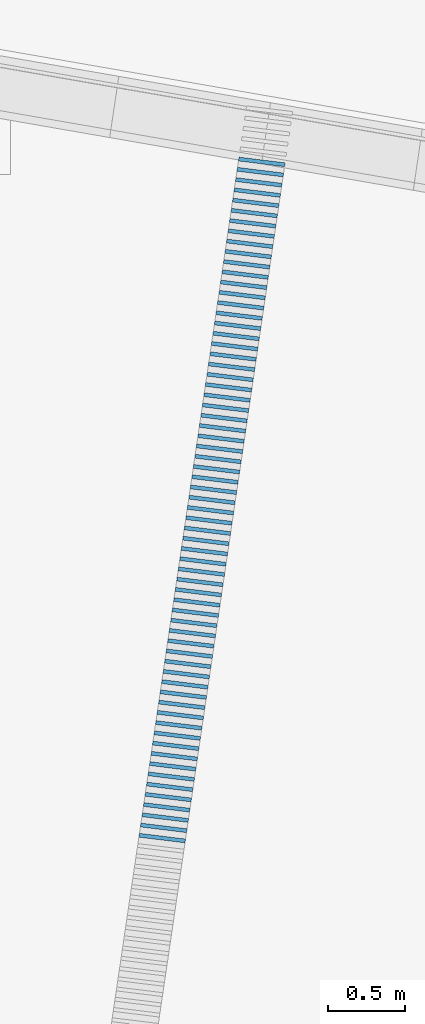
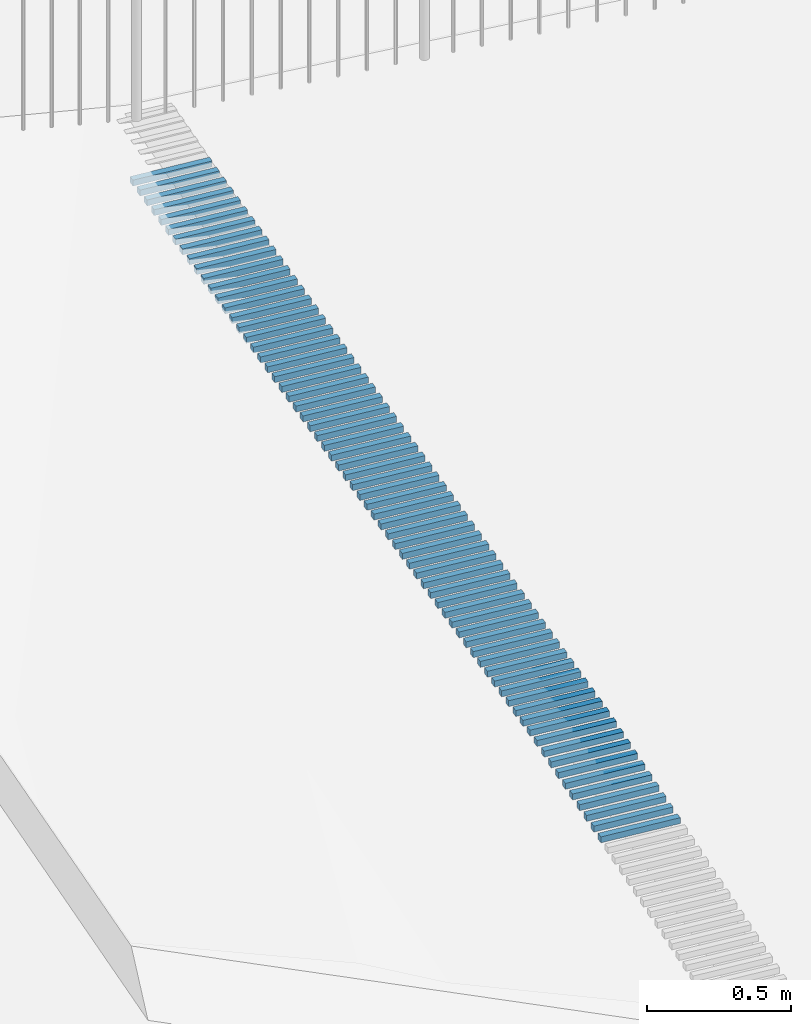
# Not in any storey, part 2 of 45: 67 members.
"""IFC4 model written with IfcOpenShell, lengths in metres."""

from ifc_helpers import new_model, si_unit, direction, frame, origin_with_axes, place, context, subcontext, project, spatial, rectangle, extrude, material, material_profile, profile_set, profile_usage, type_object, element, save


model = new_model("IFC4")

# Units and contexts
model_context = context("Model", 3, precision=1e-05, world=origin_with_axes(), true_north=direction((0.0, 1.0)))
body_context = subcontext(model_context, "Body", "Model", "MODEL_VIEW")
ifc_project = project(units=[si_unit("VOLUMEUNIT", "CUBIC_METRE"), si_unit("LENGTHUNIT", "METRE"), si_unit("AREAUNIT", "SQUARE_METRE")], contexts=[model_context])

# Site
site_placement = place(None, origin_with_axes())
site = spatial("IfcSite", under=ifc_project, at=site_placement, Name="Lares · Rua das Mercês · artigo 4771")

# Members
ifc_material = material(Name="Aço galvanizado / Stahl verzinkt", Category="steel")
ifc_material_profile = material_profile(ifc_material, rectangle(XDim=0.025, YDim=0.025))
ifc_profile_set = profile_set([ifc_material_profile], Name="R0.025")
ifc_profile_usage_1 = profile_usage(ifc_profile_set)
member_type = type_object("IfcMemberType", Name="R0.025 / galvanized", PredefinedType="NOTDEFINED", material=ifc_profile_set)
member_1_placement = place(site_placement, frame((49.015085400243, 6.59258553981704, 15.5699738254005), z_axis=(0.992517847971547, -0.12209963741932, 0.0), x_axis=(-0.12209963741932, -0.992517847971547, 0.0)))
element("IfcMember", 1, at=member_1_placement, inside=site, type_object=member_type, material=ifc_profile_usage_1, Name="Interceção · grelha estacionamento", context=body_context, shape_type="SweptSolid", body=[
    extrude(rectangle(XDim=0.025, YDim=0.025), origin_with_axes(), (0.0, 0.0, 1.0), 0.300000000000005),
])
ifc_profile_usage_2 = profile_usage(ifc_profile_set)
member_2_placement = place(site_placement, frame((49.0248366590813, 6.65880872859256, 15.5718488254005), z_axis=(0.992517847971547, -0.12209963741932, 0.0), x_axis=(-0.12209963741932, -0.992517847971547, 0.0)))
element("IfcMember", 2, at=member_2_placement, inside=site, type_object=member_type, material=ifc_profile_usage_2, Name="Interceção · grelha estacionamento", context=body_context, shape_type="SweptSolid", body=[
    extrude(rectangle(XDim=0.025, YDim=0.025), origin_with_axes(), (0.0, 0.0, 1.0), 0.300000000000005),
])
ifc_profile_usage_3 = profile_usage(ifc_profile_set)
member_3_placement = place(site_placement, frame((49.0345879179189, 6.7250319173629, 15.5737238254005), z_axis=(0.992517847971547, -0.12209963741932, 0.0), x_axis=(-0.12209963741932, -0.992517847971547, 0.0)))
element("IfcMember", 3, at=member_3_placement, inside=site, type_object=member_type, material=ifc_profile_usage_3, Name="Interceção · grelha estacionamento", context=body_context, shape_type="SweptSolid", body=[
    extrude(rectangle(XDim=0.025, YDim=0.025), origin_with_axes(), (0.0, 0.0, 1.0), 0.300000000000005),
])
ifc_profile_usage_4 = profile_usage(ifc_profile_set)
member_4_placement = place(site_placement, frame((49.0443391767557, 6.79125510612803, 15.5755988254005), z_axis=(0.992517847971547, -0.12209963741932, 0.0), x_axis=(-0.12209963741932, -0.992517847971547, 0.0)))
element("IfcMember", 4, at=member_4_placement, inside=site, type_object=member_type, material=ifc_profile_usage_4, Name="Interceção · grelha estacionamento", context=body_context, shape_type="SweptSolid", body=[
    extrude(rectangle(XDim=0.025, YDim=0.025), origin_with_axes(), (0.0, 0.0, 1.0), 0.300000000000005),
])
ifc_profile_usage_5 = profile_usage(ifc_profile_set)
member_5_placement = place(site_placement, frame((49.0540904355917, 6.85747829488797, 15.5774738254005), z_axis=(0.992517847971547, -0.12209963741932, 0.0), x_axis=(-0.12209963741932, -0.992517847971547, 0.0)))
element("IfcMember", 5, at=member_5_placement, inside=site, type_object=member_type, material=ifc_profile_usage_5, Name="Interceção · grelha estacionamento", context=body_context, shape_type="SweptSolid", body=[
    extrude(rectangle(XDim=0.025, YDim=0.025), origin_with_axes(), (0.0, 0.0, 1.0), 0.300000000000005),
])
ifc_profile_usage_6 = profile_usage(ifc_profile_set)
member_6_placement = place(site_placement, frame((49.063841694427, 6.92370148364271, 15.5793488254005), z_axis=(0.992517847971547, -0.12209963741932, 0.0), x_axis=(-0.12209963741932, -0.992517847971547, 0.0)))
element("IfcMember", 6, at=member_6_placement, inside=site, type_object=member_type, material=ifc_profile_usage_6, Name="Interceção · grelha estacionamento", context=body_context, shape_type="SweptSolid", body=[
    extrude(rectangle(XDim=0.025, YDim=0.025), origin_with_axes(), (0.0, 0.0, 1.0), 0.300000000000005),
])
ifc_profile_usage_7 = profile_usage(ifc_profile_set)
member_7_placement = place(site_placement, frame((49.0735929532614, 6.98992467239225, 15.5812238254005), z_axis=(0.992517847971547, -0.12209963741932, 0.0), x_axis=(-0.12209963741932, -0.992517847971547, 0.0)))
element("IfcMember", 7, at=member_7_placement, inside=site, type_object=member_type, material=ifc_profile_usage_7, Name="Interceção · grelha estacionamento", context=body_context, shape_type="SweptSolid", body=[
    extrude(rectangle(XDim=0.025, YDim=0.025), origin_with_axes(), (0.0, 0.0, 1.0), 0.300000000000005),
])
ifc_profile_usage_8 = profile_usage(ifc_profile_set)
member_8_placement = place(site_placement, frame((49.0833442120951, 7.05614786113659, 15.5830988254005), z_axis=(0.992517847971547, -0.12209963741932, 0.0), x_axis=(-0.12209963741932, -0.992517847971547, 0.0)))
element("IfcMember", 8, at=member_8_placement, inside=site, type_object=member_type, material=ifc_profile_usage_8, Name="Interceção · grelha estacionamento", context=body_context, shape_type="SweptSolid", body=[
    extrude(rectangle(XDim=0.025, YDim=0.025), origin_with_axes(), (0.0, 0.0, 1.0), 0.300000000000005),
])
ifc_profile_usage_9 = profile_usage(ifc_profile_set)
member_9_placement = place(site_placement, frame((49.0930954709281, 7.12237104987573, 15.5849738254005), z_axis=(0.992517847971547, -0.12209963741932, 0.0), x_axis=(-0.12209963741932, -0.992517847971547, 0.0)))
element("IfcMember", 9, at=member_9_placement, inside=site, type_object=member_type, material=ifc_profile_usage_9, Name="Interceção · grelha estacionamento", context=body_context, shape_type="SweptSolid", body=[
    extrude(rectangle(XDim=0.025, YDim=0.025), origin_with_axes(), (0.0, 0.0, 1.0), 0.300000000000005),
])
ifc_profile_usage_10 = profile_usage(ifc_profile_set)
member_10_placement = place(site_placement, frame((49.1028467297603, 7.18859423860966, 15.5868488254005), z_axis=(0.992517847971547, -0.12209963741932, 0.0), x_axis=(-0.12209963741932, -0.992517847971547, 0.0)))
element("IfcMember", 10, at=member_10_placement, inside=site, type_object=member_type, material=ifc_profile_usage_10, Name="Interceção · grelha estacionamento", context=body_context, shape_type="SweptSolid", body=[
    extrude(rectangle(XDim=0.025, YDim=0.025), origin_with_axes(), (0.0, 0.0, 1.0), 0.300000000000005),
])
ifc_profile_usage_11 = profile_usage(ifc_profile_set)
member_11_placement = place(site_placement, frame((49.1125979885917, 7.25481742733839, 15.5872761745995), z_axis=(0.992517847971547, -0.12209963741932, 0.0), x_axis=(-0.12209963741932, -0.992517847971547, 0.0)))
element("IfcMember", 11, at=member_11_placement, inside=site, type_object=member_type, material=ifc_profile_usage_11, Name="Interceção · grelha estacionamento", context=body_context, shape_type="SweptSolid", body=[
    extrude(rectangle(XDim=0.025, YDim=0.025), origin_with_axes(), (0.0, 0.0, 1.0), 0.300000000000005),
])
ifc_profile_usage_12 = profile_usage(ifc_profile_set)
member_12_placement = place(site_placement, frame((49.1223492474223, 7.32104061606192, 15.5854011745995), z_axis=(0.992517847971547, -0.12209963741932, 0.0), x_axis=(-0.12209963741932, -0.992517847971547, 0.0)))
element("IfcMember", 12, at=member_12_placement, inside=site, type_object=member_type, material=ifc_profile_usage_12, Name="Interceção · grelha estacionamento", context=body_context, shape_type="SweptSolid", body=[
    extrude(rectangle(XDim=0.025, YDim=0.025), origin_with_axes(), (0.0, 0.0, 1.0), 0.300000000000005),
])
ifc_profile_usage_13 = profile_usage(ifc_profile_set)
member_13_placement = place(site_placement, frame((49.1321005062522, 7.38726380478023, 15.5835261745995), z_axis=(0.992517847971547, -0.12209963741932, 0.0), x_axis=(-0.12209963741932, -0.992517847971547, 0.0)))
element("IfcMember", 13, at=member_13_placement, inside=site, type_object=member_type, material=ifc_profile_usage_13, Name="Interceção · grelha estacionamento", context=body_context, shape_type="SweptSolid", body=[
    extrude(rectangle(XDim=0.025, YDim=0.025), origin_with_axes(), (0.0, 0.0, 1.0), 0.300000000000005),
])
ifc_profile_usage_14 = profile_usage(ifc_profile_set)
member_14_placement = place(site_placement, frame((49.1418517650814, 7.45348699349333, 15.5816511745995), z_axis=(0.992517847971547, -0.12209963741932, 0.0), x_axis=(-0.12209963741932, -0.992517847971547, 0.0)))
element("IfcMember", 14, at=member_14_placement, inside=site, type_object=member_type, material=ifc_profile_usage_14, Name="Interceção · grelha estacionamento", context=body_context, shape_type="SweptSolid", body=[
    extrude(rectangle(XDim=0.025, YDim=0.025), origin_with_axes(), (0.0, 0.0, 1.0), 0.300000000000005),
])
ifc_profile_usage_15 = profile_usage(ifc_profile_set)
member_15_placement = place(site_placement, frame((49.1516030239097, 7.51971018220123, 15.5797761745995), z_axis=(0.992517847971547, -0.12209963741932, 0.0), x_axis=(-0.12209963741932, -0.992517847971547, 0.0)))
element("IfcMember", 15, at=member_15_placement, inside=site, type_object=member_type, material=ifc_profile_usage_15, Name="Interceção · grelha estacionamento", context=body_context, shape_type="SweptSolid", body=[
    extrude(rectangle(XDim=0.025, YDim=0.025), origin_with_axes(), (0.0, 0.0, 1.0), 0.300000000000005),
])
ifc_profile_usage_16 = profile_usage(ifc_profile_set)
member_16_placement = place(site_placement, frame((49.1613542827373, 7.58593337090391, 15.5779011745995), z_axis=(0.992517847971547, -0.12209963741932, 0.0), x_axis=(-0.12209963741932, -0.992517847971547, 0.0)))
element("IfcMember", 16, at=member_16_placement, inside=site, type_object=member_type, material=ifc_profile_usage_16, Name="Interceção · grelha estacionamento", context=body_context, shape_type="SweptSolid", body=[
    extrude(rectangle(XDim=0.025, YDim=0.025), origin_with_axes(), (0.0, 0.0, 1.0), 0.300000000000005),
])
ifc_profile_usage_17 = profile_usage(ifc_profile_set)
member_17_placement = place(site_placement, frame((49.1711055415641, 7.65215655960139, 15.5760261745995), z_axis=(0.992517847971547, -0.12209963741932, 0.0), x_axis=(-0.12209963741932, -0.992517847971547, 0.0)))
element("IfcMember", 17, at=member_17_placement, inside=site, type_object=member_type, material=ifc_profile_usage_17, Name="Interceção · grelha estacionamento", context=body_context, shape_type="SweptSolid", body=[
    extrude(rectangle(XDim=0.025, YDim=0.025), origin_with_axes(), (0.0, 0.0, 1.0), 0.300000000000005),
])
ifc_profile_usage_18 = profile_usage(ifc_profile_set)
member_18_placement = place(site_placement, frame((49.1808568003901, 7.71837974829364, 15.5741511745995), z_axis=(0.992517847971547, -0.12209963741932, 0.0), x_axis=(-0.12209963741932, -0.992517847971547, 0.0)))
element("IfcMember", 18, at=member_18_placement, inside=site, type_object=member_type, material=ifc_profile_usage_18, Name="Interceção · grelha estacionamento", context=body_context, shape_type="SweptSolid", body=[
    extrude(rectangle(XDim=0.025, YDim=0.025), origin_with_axes(), (0.0, 0.0, 1.0), 0.300000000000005),
])
ifc_profile_usage_19 = profile_usage(ifc_profile_set)
member_19_placement = place(site_placement, frame((49.1906080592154, 7.78460293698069, 15.5722761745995), z_axis=(0.992517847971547, -0.12209963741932, 0.0), x_axis=(-0.12209963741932, -0.992517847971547, 0.0)))
element("IfcMember", 19, at=member_19_placement, inside=site, type_object=member_type, material=ifc_profile_usage_19, Name="Interceção · grelha estacionamento", context=body_context, shape_type="SweptSolid", body=[
    extrude(rectangle(XDim=0.025, YDim=0.025), origin_with_axes(), (0.0, 0.0, 1.0), 0.300000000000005),
])
ifc_profile_usage_20 = profile_usage(ifc_profile_set)
member_20_placement = place(site_placement, frame((49.2003593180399, 7.85082612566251, 15.5704011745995), z_axis=(0.992517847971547, -0.12209963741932, 0.0), x_axis=(-0.12209963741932, -0.992517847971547, 0.0)))
element("IfcMember", 20, at=member_20_placement, inside=site, type_object=member_type, material=ifc_profile_usage_20, Name="Interceção · grelha estacionamento", context=body_context, shape_type="SweptSolid", body=[
    extrude(rectangle(XDim=0.025, YDim=0.025), origin_with_axes(), (0.0, 0.0, 1.0), 0.300000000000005),
])
ifc_profile_usage_21 = profile_usage(ifc_profile_set)
member_21_placement = place(site_placement, frame((49.2101105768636, 7.91704931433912, 15.5685261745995), z_axis=(0.992517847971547, -0.12209963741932, 0.0), x_axis=(-0.12209963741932, -0.992517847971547, 0.0)))
element("IfcMember", 21, at=member_21_placement, inside=site, type_object=member_type, material=ifc_profile_usage_21, Name="Interceção · grelha estacionamento", context=body_context, shape_type="SweptSolid", body=[
    extrude(rectangle(XDim=0.025, YDim=0.025), origin_with_axes(), (0.0, 0.0, 1.0), 0.300000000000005),
])
ifc_profile_usage_22 = profile_usage(ifc_profile_set)
member_22_placement = place(site_placement, frame((49.2198618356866, 7.98327250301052, 15.5666511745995), z_axis=(0.992517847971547, -0.12209963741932, 0.0), x_axis=(-0.12209963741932, -0.992517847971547, 0.0)))
element("IfcMember", 22, at=member_22_placement, inside=site, type_object=member_type, material=ifc_profile_usage_22, Name="Interceção · grelha estacionamento", context=body_context, shape_type="SweptSolid", body=[
    extrude(rectangle(XDim=0.025, YDim=0.025), origin_with_axes(), (0.0, 0.0, 1.0), 0.300000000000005),
])
ifc_profile_usage_23 = profile_usage(ifc_profile_set)
member_23_placement = place(site_placement, frame((49.2296130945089, 8.04949569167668, 15.5647761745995), z_axis=(0.992517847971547, -0.12209963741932, 0.0), x_axis=(-0.12209963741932, -0.992517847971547, 0.0)))
element("IfcMember", 23, at=member_23_placement, inside=site, type_object=member_type, material=ifc_profile_usage_23, Name="Interceção · grelha estacionamento", context=body_context, shape_type="SweptSolid", body=[
    extrude(rectangle(XDim=0.025, YDim=0.025), origin_with_axes(), (0.0, 0.0, 1.0), 0.300000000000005),
])
ifc_profile_usage_24 = profile_usage(ifc_profile_set)
member_24_placement = place(site_placement, frame((49.2393643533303, 8.11571888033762, 15.5629011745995), z_axis=(0.992517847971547, -0.12209963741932, 0.0), x_axis=(-0.12209963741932, -0.992517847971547, 0.0)))
element("IfcMember", 24, at=member_24_placement, inside=site, type_object=member_type, material=ifc_profile_usage_24, Name="Interceção · grelha estacionamento", context=body_context, shape_type="SweptSolid", body=[
    extrude(rectangle(XDim=0.025, YDim=0.025), origin_with_axes(), (0.0, 0.0, 1.0), 0.300000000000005),
])
ifc_profile_usage_25 = profile_usage(ifc_profile_set)
member_25_placement = place(site_placement, frame((49.249115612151, 8.18194206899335, 15.5610261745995), z_axis=(0.992517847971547, -0.12209963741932, 0.0), x_axis=(-0.12209963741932, -0.992517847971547, 0.0)))
element("IfcMember", 25, at=member_25_placement, inside=site, type_object=member_type, material=ifc_profile_usage_25, Name="Interceção · grelha estacionamento", context=body_context, shape_type="SweptSolid", body=[
    extrude(rectangle(XDim=0.025, YDim=0.025), origin_with_axes(), (0.0, 0.0, 1.0), 0.300000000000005),
])
ifc_profile_usage_26 = profile_usage(ifc_profile_set)
member_26_placement = place(site_placement, frame((49.2588668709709, 8.24816525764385, 15.5591511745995), z_axis=(0.992517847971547, -0.12209963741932, 0.0), x_axis=(-0.12209963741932, -0.992517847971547, 0.0)))
element("IfcMember", 26, at=member_26_placement, inside=site, type_object=member_type, material=ifc_profile_usage_26, Name="Interceção · grelha estacionamento", context=body_context, shape_type="SweptSolid", body=[
    extrude(rectangle(XDim=0.025, YDim=0.025), origin_with_axes(), (0.0, 0.0, 1.0), 0.300000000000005),
])
ifc_profile_usage_27 = profile_usage(ifc_profile_set)
member_27_placement = place(site_placement, frame((49.26861812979, 8.31438844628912, 15.5572761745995), z_axis=(0.992517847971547, -0.12209963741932, 0.0), x_axis=(-0.12209963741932, -0.992517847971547, 0.0)))
element("IfcMember", 27, at=member_27_placement, inside=site, type_object=member_type, material=ifc_profile_usage_27, Name="Interceção · grelha estacionamento", context=body_context, shape_type="SweptSolid", body=[
    extrude(rectangle(XDim=0.025, YDim=0.025), origin_with_axes(), (0.0, 0.0, 1.0), 0.300000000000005),
])
ifc_profile_usage_28 = profile_usage(ifc_profile_set)
member_28_placement = place(site_placement, frame((49.2783693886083, 8.38061163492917, 15.5554011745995), z_axis=(0.992517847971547, -0.12209963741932, 0.0), x_axis=(-0.12209963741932, -0.992517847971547, 0.0)))
element("IfcMember", 28, at=member_28_placement, inside=site, type_object=member_type, material=ifc_profile_usage_28, Name="Interceção · grelha estacionamento", context=body_context, shape_type="SweptSolid", body=[
    extrude(rectangle(XDim=0.025, YDim=0.025), origin_with_axes(), (0.0, 0.0, 1.0), 0.300000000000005),
])
ifc_profile_usage_29 = profile_usage(ifc_profile_set)
member_29_placement = place(site_placement, frame((49.2881206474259, 8.44683482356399, 15.5535261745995), z_axis=(0.992517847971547, -0.12209963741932, 0.0), x_axis=(-0.12209963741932, -0.992517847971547, 0.0)))
element("IfcMember", 29, at=member_29_placement, inside=site, type_object=member_type, material=ifc_profile_usage_29, Name="Interceção · grelha estacionamento", context=body_context, shape_type="SweptSolid", body=[
    extrude(rectangle(XDim=0.025, YDim=0.025), origin_with_axes(), (0.0, 0.0, 1.0), 0.300000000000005),
])
ifc_profile_usage_30 = profile_usage(ifc_profile_set)
member_30_placement = place(site_placement, frame((49.2978719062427, 8.51305801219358, 15.5516511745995), z_axis=(0.992517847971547, -0.12209963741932, 0.0), x_axis=(-0.12209963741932, -0.992517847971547, 0.0)))
element("IfcMember", 30, at=member_30_placement, inside=site, type_object=member_type, material=ifc_profile_usage_30, Name="Interceção · grelha estacionamento", context=body_context, shape_type="SweptSolid", body=[
    extrude(rectangle(XDim=0.025, YDim=0.025), origin_with_axes(), (0.0, 0.0, 1.0), 0.300000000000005),
])
ifc_profile_usage_31 = profile_usage(ifc_profile_set)
member_31_placement = place(site_placement, frame((49.3076231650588, 8.57928120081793, 15.5497761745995), z_axis=(0.992517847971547, -0.12209963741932, 0.0), x_axis=(-0.12209963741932, -0.992517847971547, 0.0)))
element("IfcMember", 31, at=member_31_placement, inside=site, type_object=member_type, material=ifc_profile_usage_31, Name="Interceção · grelha estacionamento", context=body_context, shape_type="SweptSolid", body=[
    extrude(rectangle(XDim=0.025, YDim=0.025), origin_with_axes(), (0.0, 0.0, 1.0), 0.300000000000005),
])
ifc_profile_usage_32 = profile_usage(ifc_profile_set)
member_32_placement = place(site_placement, frame((49.3173744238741, 8.64550438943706, 15.5479011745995), z_axis=(0.992517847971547, -0.12209963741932, 0.0), x_axis=(-0.12209963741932, -0.992517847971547, 0.0)))
element("IfcMember", 32, at=member_32_placement, inside=site, type_object=member_type, material=ifc_profile_usage_32, Name="Interceção · grelha estacionamento", context=body_context, shape_type="SweptSolid", body=[
    extrude(rectangle(XDim=0.025, YDim=0.025), origin_with_axes(), (0.0, 0.0, 1.0), 0.300000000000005),
])
ifc_profile_usage_33 = profile_usage(ifc_profile_set)
member_33_placement = place(site_placement, frame((49.3271256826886, 8.71172757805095, 15.5460261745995), z_axis=(0.992517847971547, -0.12209963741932, 0.0), x_axis=(-0.12209963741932, -0.992517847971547, 0.0)))
element("IfcMember", 33, at=member_33_placement, inside=site, type_object=member_type, material=ifc_profile_usage_33, Name="Interceção · grelha estacionamento", context=body_context, shape_type="SweptSolid", body=[
    extrude(rectangle(XDim=0.025, YDim=0.025), origin_with_axes(), (0.0, 0.0, 1.0), 0.300000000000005),
])
ifc_profile_usage_34 = profile_usage(ifc_profile_set)
member_34_placement = place(site_placement, frame((49.3368769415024, 8.7779507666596, 15.5441511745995), z_axis=(0.992517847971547, -0.12209963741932, 0.0), x_axis=(-0.12209963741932, -0.992517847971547, 0.0)))
element("IfcMember", 34, at=member_34_placement, inside=site, type_object=member_type, material=ifc_profile_usage_34, Name="Interceção · grelha estacionamento", context=body_context, shape_type="SweptSolid", body=[
    extrude(rectangle(XDim=0.025, YDim=0.025), origin_with_axes(), (0.0, 0.0, 1.0), 0.300000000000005),
])
ifc_profile_usage_35 = profile_usage(ifc_profile_set)
member_35_placement = place(site_placement, frame((49.3466282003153, 8.84417395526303, 15.5422761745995), z_axis=(0.992517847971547, -0.12209963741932, 0.0), x_axis=(-0.12209963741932, -0.992517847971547, 0.0)))
element("IfcMember", 35, at=member_35_placement, inside=site, type_object=member_type, material=ifc_profile_usage_35, Name="Interceção · grelha estacionamento", context=body_context, shape_type="SweptSolid", body=[
    extrude(rectangle(XDim=0.025, YDim=0.025), origin_with_axes(), (0.0, 0.0, 1.0), 0.300000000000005),
])
ifc_profile_usage_36 = profile_usage(ifc_profile_set)
member_36_placement = place(site_placement, frame((49.3563794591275, 8.91039714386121, 15.5404011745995), z_axis=(0.992517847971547, -0.12209963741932, 0.0), x_axis=(-0.12209963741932, -0.992517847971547, 0.0)))
element("IfcMember", 36, at=member_36_placement, inside=site, type_object=member_type, material=ifc_profile_usage_36, Name="Interceção · grelha estacionamento", context=body_context, shape_type="SweptSolid", body=[
    extrude(rectangle(XDim=0.025, YDim=0.025), origin_with_axes(), (0.0, 0.0, 1.0), 0.300000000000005),
])
ifc_profile_usage_37 = profile_usage(ifc_profile_set)
member_37_placement = place(site_placement, frame((49.3661307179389, 8.97662033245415, 15.5385261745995), z_axis=(0.992517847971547, -0.12209963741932, 0.0), x_axis=(-0.12209963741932, -0.992517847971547, 0.0)))
element("IfcMember", 37, at=member_37_placement, inside=site, type_object=member_type, material=ifc_profile_usage_37, Name="Interceção · grelha estacionamento", context=body_context, shape_type="SweptSolid", body=[
    extrude(rectangle(XDim=0.025, YDim=0.025), origin_with_axes(), (0.0, 0.0, 1.0), 0.300000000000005),
])
ifc_profile_usage_38 = profile_usage(ifc_profile_set)
member_38_placement = place(site_placement, frame((49.3758819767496, 9.04284352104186, 15.5366511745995), z_axis=(0.992517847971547, -0.12209963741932, 0.0), x_axis=(-0.12209963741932, -0.992517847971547, 0.0)))
element("IfcMember", 38, at=member_38_placement, inside=site, type_object=member_type, material=ifc_profile_usage_38, Name="Interceção · grelha estacionamento", context=body_context, shape_type="SweptSolid", body=[
    extrude(rectangle(XDim=0.025, YDim=0.025), origin_with_axes(), (0.0, 0.0, 1.0), 0.300000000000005),
])
ifc_profile_usage_39 = profile_usage(ifc_profile_set)
member_39_placement = place(site_placement, frame((49.3856332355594, 9.10906670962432, 15.5347761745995), z_axis=(0.992517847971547, -0.12209963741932, 0.0), x_axis=(-0.12209963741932, -0.992517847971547, 0.0)))
element("IfcMember", 39, at=member_39_placement, inside=site, type_object=member_type, material=ifc_profile_usage_39, Name="Interceção · grelha estacionamento", context=body_context, shape_type="SweptSolid", body=[
    extrude(rectangle(XDim=0.025, YDim=0.025), origin_with_axes(), (0.0, 0.0, 1.0), 0.300000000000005),
])
ifc_profile_usage_40 = profile_usage(ifc_profile_set)
member_40_placement = place(site_placement, frame((49.3953844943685, 9.17528989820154, 15.5329011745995), z_axis=(0.992517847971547, -0.12209963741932, 0.0), x_axis=(-0.12209963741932, -0.992517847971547, 0.0)))
element("IfcMember", 40, at=member_40_placement, inside=site, type_object=member_type, material=ifc_profile_usage_40, Name="Interceção · grelha estacionamento", context=body_context, shape_type="SweptSolid", body=[
    extrude(rectangle(XDim=0.025, YDim=0.025), origin_with_axes(), (0.0, 0.0, 1.0), 0.300000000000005),
])
ifc_profile_usage_41 = profile_usage(ifc_profile_set)
member_41_placement = place(site_placement, frame((49.4051357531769, 9.24151308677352, 15.5310261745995), z_axis=(0.992517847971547, -0.12209963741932, 0.0), x_axis=(-0.12209963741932, -0.992517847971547, 0.0)))
element("IfcMember", 41, at=member_41_placement, inside=site, type_object=member_type, material=ifc_profile_usage_41, Name="Interceção · grelha estacionamento", context=body_context, shape_type="SweptSolid", body=[
    extrude(rectangle(XDim=0.025, YDim=0.025), origin_with_axes(), (0.0, 0.0, 1.0), 0.300000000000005),
])
ifc_profile_usage_42 = profile_usage(ifc_profile_set)
member_42_placement = place(site_placement, frame((49.4148870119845, 9.30773627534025, 15.5291511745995), z_axis=(0.992517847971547, -0.12209963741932, 0.0), x_axis=(-0.12209963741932, -0.992517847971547, 0.0)))
element("IfcMember", 42, at=member_42_placement, inside=site, type_object=member_type, material=ifc_profile_usage_42, Name="Interceção · grelha estacionamento", context=body_context, shape_type="SweptSolid", body=[
    extrude(rectangle(XDim=0.025, YDim=0.025), origin_with_axes(), (0.0, 0.0, 1.0), 0.300000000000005),
])
ifc_profile_usage_43 = profile_usage(ifc_profile_set)
member_43_placement = place(site_placement, frame((49.4246382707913, 9.37395946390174, 15.5272761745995), z_axis=(0.992517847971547, -0.12209963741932, 0.0), x_axis=(-0.12209963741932, -0.992517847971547, 0.0)))
element("IfcMember", 43, at=member_43_placement, inside=site, type_object=member_type, material=ifc_profile_usage_43, Name="Interceção · grelha estacionamento", context=body_context, shape_type="SweptSolid", body=[
    extrude(rectangle(XDim=0.025, YDim=0.025), origin_with_axes(), (0.0, 0.0, 1.0), 0.300000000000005),
])
ifc_profile_usage_44 = profile_usage(ifc_profile_set)
member_44_placement = place(site_placement, frame((49.4343895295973, 9.44018265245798, 15.5254011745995), z_axis=(0.992517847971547, -0.12209963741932, 0.0), x_axis=(-0.12209963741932, -0.992517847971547, 0.0)))
element("IfcMember", 44, at=member_44_placement, inside=site, type_object=member_type, material=ifc_profile_usage_44, Name="Interceção · grelha estacionamento", context=body_context, shape_type="SweptSolid", body=[
    extrude(rectangle(XDim=0.025, YDim=0.025), origin_with_axes(), (0.0, 0.0, 1.0), 0.300000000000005),
])
ifc_profile_usage_45 = profile_usage(ifc_profile_set)
member_45_placement = place(site_placement, frame((49.4441407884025, 9.50640584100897, 15.5235261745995), z_axis=(0.992517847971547, -0.12209963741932, 0.0), x_axis=(-0.12209963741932, -0.992517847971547, 0.0)))
element("IfcMember", 45, at=member_45_placement, inside=site, type_object=member_type, material=ifc_profile_usage_45, Name="Interceção · grelha estacionamento", context=body_context, shape_type="SweptSolid", body=[
    extrude(rectangle(XDim=0.025, YDim=0.025), origin_with_axes(), (0.0, 0.0, 1.0), 0.300000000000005),
])
ifc_profile_usage_46 = profile_usage(ifc_profile_set)
member_46_placement = place(site_placement, frame((49.453892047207, 9.57262902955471, 15.5216511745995), z_axis=(0.992517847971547, -0.12209963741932, 0.0), x_axis=(-0.12209963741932, -0.992517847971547, 0.0)))
element("IfcMember", 46, at=member_46_placement, inside=site, type_object=member_type, material=ifc_profile_usage_46, Name="Interceção · grelha estacionamento", context=body_context, shape_type="SweptSolid", body=[
    extrude(rectangle(XDim=0.025, YDim=0.025), origin_with_axes(), (0.0, 0.0, 1.0), 0.300000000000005),
])
ifc_profile_usage_47 = profile_usage(ifc_profile_set)
member_47_placement = place(site_placement, frame((49.4636433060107, 9.63885221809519, 15.5197761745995), z_axis=(0.992517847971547, -0.12209963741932, 0.0), x_axis=(-0.12209963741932, -0.992517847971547, 0.0)))
element("IfcMember", 47, at=member_47_placement, inside=site, type_object=member_type, material=ifc_profile_usage_47, Name="Interceção · grelha estacionamento", context=body_context, shape_type="SweptSolid", body=[
    extrude(rectangle(XDim=0.025, YDim=0.025), origin_with_axes(), (0.0, 0.0, 1.0), 0.300000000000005),
])
ifc_profile_usage_48 = profile_usage(ifc_profile_set)
member_48_placement = place(site_placement, frame((49.4733945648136, 9.70507540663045, 15.5179011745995), z_axis=(0.992517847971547, -0.12209963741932, 0.0), x_axis=(-0.12209963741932, -0.992517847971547, 0.0)))
element("IfcMember", 48, at=member_48_placement, inside=site, type_object=member_type, material=ifc_profile_usage_48, Name="Interceção · grelha estacionamento", context=body_context, shape_type="SweptSolid", body=[
    extrude(rectangle(XDim=0.025, YDim=0.025), origin_with_axes(), (0.0, 0.0, 1.0), 0.300000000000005),
])
ifc_profile_usage_49 = profile_usage(ifc_profile_set)
member_49_placement = place(site_placement, frame((49.4831458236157, 9.77129859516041, 15.5160261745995), z_axis=(0.992517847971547, -0.12209963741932, 0.0), x_axis=(-0.12209963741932, -0.992517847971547, 0.0)))
element("IfcMember", 49, at=member_49_placement, inside=site, type_object=member_type, material=ifc_profile_usage_49, Name="Interceção · grelha estacionamento", context=body_context, shape_type="SweptSolid", body=[
    extrude(rectangle(XDim=0.025, YDim=0.025), origin_with_axes(), (0.0, 0.0, 1.0), 0.300000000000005),
])
ifc_profile_usage_50 = profile_usage(ifc_profile_set)
member_50_placement = place(site_placement, frame((49.4928970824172, 9.83752178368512, 15.5141511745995), z_axis=(0.992517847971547, -0.12209963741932, 0.0), x_axis=(-0.12209963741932, -0.992517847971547, 0.0)))
element("IfcMember", 50, at=member_50_placement, inside=site, type_object=member_type, material=ifc_profile_usage_50, Name="Interceção · grelha estacionamento", context=body_context, shape_type="SweptSolid", body=[
    extrude(rectangle(XDim=0.025, YDim=0.025), origin_with_axes(), (0.0, 0.0, 1.0), 0.300000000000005),
])
ifc_profile_usage_51 = profile_usage(ifc_profile_set)
member_51_placement = place(site_placement, frame((49.5026483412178, 9.90374497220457, 15.5122761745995), z_axis=(0.992517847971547, -0.12209963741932, 0.0), x_axis=(-0.12209963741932, -0.992517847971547, 0.0)))
element("IfcMember", 51, at=member_51_placement, inside=site, type_object=member_type, material=ifc_profile_usage_51, Name="Interceção · grelha estacionamento", context=body_context, shape_type="SweptSolid", body=[
    extrude(rectangle(XDim=0.025, YDim=0.025), origin_with_axes(), (0.0, 0.0, 1.0), 0.300000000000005),
])
ifc_profile_usage_52 = profile_usage(ifc_profile_set)
member_52_placement = place(site_placement, frame((49.5123996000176, 9.96996816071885, 15.5104011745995), z_axis=(0.992517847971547, -0.12209963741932, 0.0), x_axis=(-0.12209963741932, -0.992517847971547, 0.0)))
element("IfcMember", 52, at=member_52_placement, inside=site, type_object=member_type, material=ifc_profile_usage_52, Name="Interceção · grelha estacionamento", context=body_context, shape_type="SweptSolid", body=[
    extrude(rectangle(XDim=0.025, YDim=0.025), origin_with_axes(), (0.0, 0.0, 1.0), 0.300000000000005),
])
ifc_profile_usage_53 = profile_usage(ifc_profile_set)
member_53_placement = place(site_placement, frame((49.5221508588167, 10.0361913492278, 15.5085261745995), z_axis=(0.992517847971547, -0.12209963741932, 0.0), x_axis=(-0.12209963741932, -0.992517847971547, 0.0)))
element("IfcMember", 53, at=member_53_placement, inside=site, type_object=member_type, material=ifc_profile_usage_53, Name="Interceção · grelha estacionamento", context=body_context, shape_type="SweptSolid", body=[
    extrude(rectangle(XDim=0.025, YDim=0.025), origin_with_axes(), (0.0, 0.0, 1.0), 0.300000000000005),
])
ifc_profile_usage_54 = profile_usage(ifc_profile_set)
member_54_placement = place(site_placement, frame((49.5319021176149, 10.1024145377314, 15.5066511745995), z_axis=(0.992517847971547, -0.12209963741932, 0.0), x_axis=(-0.12209963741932, -0.992517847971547, 0.0)))
element("IfcMember", 54, at=member_54_placement, inside=site, type_object=member_type, material=ifc_profile_usage_54, Name="Interceção · grelha estacionamento", context=body_context, shape_type="SweptSolid", body=[
    extrude(rectangle(XDim=0.025, YDim=0.025), origin_with_axes(), (0.0, 0.0, 1.0), 0.300000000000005),
])
ifc_profile_usage_55 = profile_usage(ifc_profile_set)
member_55_placement = place(site_placement, frame((49.5416533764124, 10.1686377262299, 15.5047761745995), z_axis=(0.992517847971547, -0.12209963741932, 0.0), x_axis=(-0.12209963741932, -0.992517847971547, 0.0)))
element("IfcMember", 55, at=member_55_placement, inside=site, type_object=member_type, material=ifc_profile_usage_55, Name="Interceção · grelha estacionamento", context=body_context, shape_type="SweptSolid", body=[
    extrude(rectangle(XDim=0.025, YDim=0.025), origin_with_axes(), (0.0, 0.0, 1.0), 0.300000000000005),
])
ifc_profile_usage_56 = profile_usage(ifc_profile_set)
member_56_placement = place(site_placement, frame((49.5514046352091, 10.234860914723, 15.5029011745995), z_axis=(0.992517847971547, -0.12209963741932, 0.0), x_axis=(-0.12209963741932, -0.992517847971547, 0.0)))
element("IfcMember", 56, at=member_56_placement, inside=site, type_object=member_type, material=ifc_profile_usage_56, Name="Interceção · grelha estacionamento", context=body_context, shape_type="SweptSolid", body=[
    extrude(rectangle(XDim=0.025, YDim=0.025), origin_with_axes(), (0.0, 0.0, 1.0), 0.300000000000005),
])
ifc_profile_usage_57 = profile_usage(ifc_profile_set)
member_57_placement = place(site_placement, frame((49.5611558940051, 10.3010841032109, 15.5010261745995), z_axis=(0.992517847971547, -0.12209963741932, 0.0), x_axis=(-0.12209963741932, -0.992517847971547, 0.0)))
element("IfcMember", 57, at=member_57_placement, inside=site, type_object=member_type, material=ifc_profile_usage_57, Name="Interceção · grelha estacionamento", context=body_context, shape_type="SweptSolid", body=[
    extrude(rectangle(XDim=0.025, YDim=0.025), origin_with_axes(), (0.0, 0.0, 1.0), 0.300000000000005),
])
ifc_profile_usage_58 = profile_usage(ifc_profile_set)
member_58_placement = place(site_placement, frame((49.5709071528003, 10.3673072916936, 15.4991511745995), z_axis=(0.992517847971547, -0.12209963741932, 0.0), x_axis=(-0.12209963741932, -0.992517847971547, 0.0)))
element("IfcMember", 58, at=member_58_placement, inside=site, type_object=member_type, material=ifc_profile_usage_58, Name="Interceção · grelha estacionamento", context=body_context, shape_type="SweptSolid", body=[
    extrude(rectangle(XDim=0.025, YDim=0.025), origin_with_axes(), (0.0, 0.0, 1.0), 0.300000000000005),
])
ifc_profile_usage_59 = profile_usage(ifc_profile_set)
member_59_placement = place(site_placement, frame((49.5806584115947, 10.4335304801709, 15.4972761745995), z_axis=(0.992517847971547, -0.12209963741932, 0.0), x_axis=(-0.12209963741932, -0.992517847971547, 0.0)))
element("IfcMember", 59, at=member_59_placement, inside=site, type_object=member_type, material=ifc_profile_usage_59, Name="Interceção · grelha estacionamento", context=body_context, shape_type="SweptSolid", body=[
    extrude(rectangle(XDim=0.025, YDim=0.025), origin_with_axes(), (0.0, 0.0, 1.0), 0.300000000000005),
])
ifc_profile_usage_60 = profile_usage(ifc_profile_set)
member_60_placement = place(site_placement, frame((49.5904096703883, 10.499753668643, 15.4954011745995), z_axis=(0.992517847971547, -0.12209963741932, 0.0), x_axis=(-0.12209963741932, -0.992517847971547, 0.0)))
element("IfcMember", 60, at=member_60_placement, inside=site, type_object=member_type, material=ifc_profile_usage_60, Name="Interceção · grelha estacionamento", context=body_context, shape_type="SweptSolid", body=[
    extrude(rectangle(XDim=0.025, YDim=0.025), origin_with_axes(), (0.0, 0.0, 1.0), 0.300000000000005),
])
ifc_profile_usage_61 = profile_usage(ifc_profile_set)
member_61_placement = place(site_placement, frame((49.6001609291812, 10.5659768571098, 15.4935261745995), z_axis=(0.992517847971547, -0.12209963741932, 0.0), x_axis=(-0.12209963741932, -0.992517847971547, 0.0)))
element("IfcMember", 61, at=member_61_placement, inside=site, type_object=member_type, material=ifc_profile_usage_61, Name="Interceção · grelha estacionamento", context=body_context, shape_type="SweptSolid", body=[
    extrude(rectangle(XDim=0.025, YDim=0.025), origin_with_axes(), (0.0, 0.0, 1.0), 0.300000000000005),
])
ifc_profile_usage_62 = profile_usage(ifc_profile_set)
member_62_placement = place(site_placement, frame((49.6099121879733, 10.6322000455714, 15.4916511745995), z_axis=(0.992517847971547, -0.12209963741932, 0.0), x_axis=(-0.12209963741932, -0.992517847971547, 0.0)))
element("IfcMember", 62, at=member_62_placement, inside=site, type_object=member_type, material=ifc_profile_usage_62, Name="Interceção · grelha estacionamento", context=body_context, shape_type="SweptSolid", body=[
    extrude(rectangle(XDim=0.025, YDim=0.025), origin_with_axes(), (0.0, 0.0, 1.0), 0.300000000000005),
])
ifc_profile_usage_63 = profile_usage(ifc_profile_set)
member_63_placement = place(site_placement, frame((49.6196634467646, 10.6984232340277, 15.4897761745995), z_axis=(0.992517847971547, -0.12209963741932, 0.0), x_axis=(-0.12209963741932, -0.992517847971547, 0.0)))
element("IfcMember", 63, at=member_63_placement, inside=site, type_object=member_type, material=ifc_profile_usage_63, Name="Interceção · grelha estacionamento", context=body_context, shape_type="SweptSolid", body=[
    extrude(rectangle(XDim=0.025, YDim=0.025), origin_with_axes(), (0.0, 0.0, 1.0), 0.300000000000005),
])
ifc_profile_usage_64 = profile_usage(ifc_profile_set)
member_64_placement = place(site_placement, frame((49.6294147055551, 10.7646464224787, 15.4879011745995), z_axis=(0.992517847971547, -0.12209963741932, 0.0), x_axis=(-0.12209963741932, -0.992517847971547, 0.0)))
element("IfcMember", 64, at=member_64_placement, inside=site, type_object=member_type, material=ifc_profile_usage_64, Name="Interceção · grelha estacionamento", context=body_context, shape_type="SweptSolid", body=[
    extrude(rectangle(XDim=0.025, YDim=0.025), origin_with_axes(), (0.0, 0.0, 1.0), 0.300000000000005),
])
ifc_profile_usage_65 = profile_usage(ifc_profile_set)
member_65_placement = place(site_placement, frame((49.6391659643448, 10.8308696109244, 15.4860261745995), z_axis=(0.992517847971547, -0.12209963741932, 0.0), x_axis=(-0.12209963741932, -0.992517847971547, 0.0)))
element("IfcMember", 65, at=member_65_placement, inside=site, type_object=member_type, material=ifc_profile_usage_65, Name="Interceção · grelha estacionamento", context=body_context, shape_type="SweptSolid", body=[
    extrude(rectangle(XDim=0.025, YDim=0.025), origin_with_axes(), (0.0, 0.0, 1.0), 0.300000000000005),
])
ifc_profile_usage_66 = profile_usage(ifc_profile_set)
member_66_placement = place(site_placement, frame((49.6489172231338, 10.8970927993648, 15.4841511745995), z_axis=(0.992517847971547, -0.12209963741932, 0.0), x_axis=(-0.12209963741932, -0.992517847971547, 0.0)))
element("IfcMember", 66, at=member_66_placement, inside=site, type_object=member_type, material=ifc_profile_usage_66, Name="Interceção · grelha estacionamento", context=body_context, shape_type="SweptSolid", body=[
    extrude(rectangle(XDim=0.025, YDim=0.025), origin_with_axes(), (0.0, 0.0, 1.0), 0.300000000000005),
])
ifc_profile_usage_67 = profile_usage(ifc_profile_set)
member_67_placement = place(site_placement, frame((49.658668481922, 10.9633159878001, 15.4829738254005), z_axis=(0.992517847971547, -0.12209963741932, 0.0), x_axis=(-0.12209963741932, -0.992517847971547, 0.0)))
element("IfcMember", 67, at=member_67_placement, inside=site, type_object=member_type, material=ifc_profile_usage_67, Name="Interceção · grelha estacionamento", context=body_context, shape_type="SweptSolid", body=[
    extrude(rectangle(XDim=0.025, YDim=0.025), origin_with_axes(), (0.0, 0.0, 1.0), 0.300000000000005),
])

save(model, "model.ifc")
